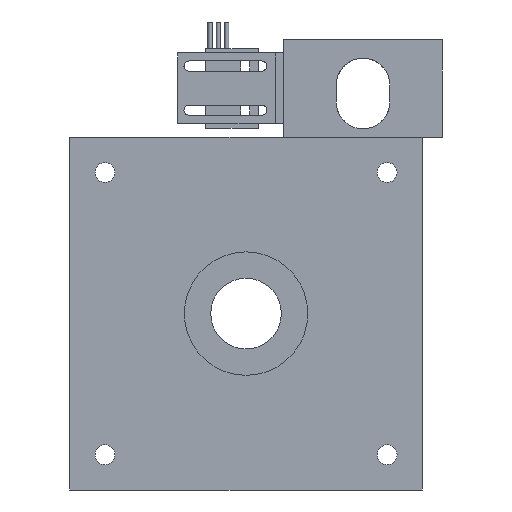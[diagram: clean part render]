
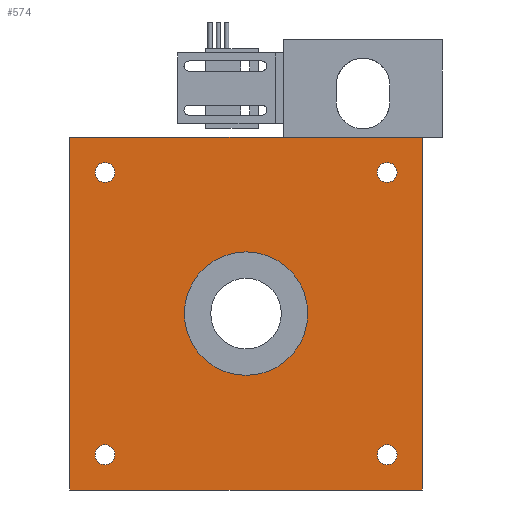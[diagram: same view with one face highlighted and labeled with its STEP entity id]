
A CAD part, front view. The second image highlights one B-rep face of the part: STEP entity #574.
In plain terms, the highlighted planar face has unit normal (0, -1, 0).
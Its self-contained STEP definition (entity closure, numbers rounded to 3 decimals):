
#93=DIRECTION('',(0.,0.,-1.));
#94=VECTOR('',#93,127.);
#95=CARTESIAN_POINT('',(-63.5,-35.475,63.5));
#96=LINE('',#95,#94);
#97=DIRECTION('',(-1.,0.,0.));
#98=VECTOR('',#97,127.);
#99=CARTESIAN_POINT('',(63.5,-35.475,63.5));
#100=LINE('',#99,#98);
#101=DIRECTION('',(0.,0.,1.));
#102=VECTOR('',#101,127.);
#103=CARTESIAN_POINT('',(63.5,-35.475,-63.5));
#104=LINE('',#103,#102);
#105=DIRECTION('',(1.,0.,0.));
#106=VECTOR('',#105,127.);
#107=CARTESIAN_POINT('',(-63.5,-35.475,-63.5));
#108=LINE('',#107,#106);
#109=CARTESIAN_POINT('',(50.8,-35.475,-50.8));
#110=DIRECTION('',(0.,1.,0.));
#111=DIRECTION('',(-1.,0.,0.));
#112=AXIS2_PLACEMENT_3D('',#109,#110,#111);
#114=CARTESIAN_POINT('',(50.8,-35.475,-50.8));
#115=DIRECTION('',(0.,1.,0.));
#116=DIRECTION('',(1.,0.,0.));
#117=AXIS2_PLACEMENT_3D('',#114,#115,#116);
#119=CARTESIAN_POINT('',(50.8,-35.475,50.8));
#120=DIRECTION('',(0.,-1.,0.));
#121=DIRECTION('',(-1.,0.,0.));
#122=AXIS2_PLACEMENT_3D('',#119,#120,#121);
#124=CARTESIAN_POINT('',(50.8,-35.475,50.8));
#125=DIRECTION('',(0.,-1.,0.));
#126=DIRECTION('',(1.,0.,0.));
#127=AXIS2_PLACEMENT_3D('',#124,#125,#126);
#129=CARTESIAN_POINT('',(-50.8,-35.475,-50.8));
#130=DIRECTION('',(0.,-1.,0.));
#131=DIRECTION('',(1.,0.,0.));
#132=AXIS2_PLACEMENT_3D('',#129,#130,#131);
#134=CARTESIAN_POINT('',(-50.8,-35.475,-50.8));
#135=DIRECTION('',(0.,-1.,0.));
#136=DIRECTION('',(-1.,0.,0.));
#137=AXIS2_PLACEMENT_3D('',#134,#135,#136);
#139=CARTESIAN_POINT('',(-50.8,-35.475,50.8));
#140=DIRECTION('',(0.,1.,0.));
#141=DIRECTION('',(1.,0.,0.));
#142=AXIS2_PLACEMENT_3D('',#139,#140,#141);
#144=CARTESIAN_POINT('',(-50.8,-35.475,50.8));
#145=DIRECTION('',(0.,1.,0.));
#146=DIRECTION('',(-1.,0.,0.));
#147=AXIS2_PLACEMENT_3D('',#144,#145,#146);
#149=CARTESIAN_POINT('',(0.,-35.475,0.));
#150=DIRECTION('',(0.,-1.,0.));
#151=DIRECTION('',(1.,0.,0.));
#152=AXIS2_PLACEMENT_3D('',#149,#150,#151);
#154=CARTESIAN_POINT('',(0.,-35.475,0.));
#155=DIRECTION('',(0.,-1.,0.));
#156=DIRECTION('',(-1.,0.,0.));
#157=AXIS2_PLACEMENT_3D('',#154,#155,#156);
#337=CARTESIAN_POINT('',(-63.5,-35.475,63.5));
#338=CARTESIAN_POINT('',(-63.5,-35.475,-63.5));
#339=VERTEX_POINT('',#337);
#340=VERTEX_POINT('',#338);
#341=CARTESIAN_POINT('',(63.5,-35.475,-63.5));
#342=VERTEX_POINT('',#341);
#343=CARTESIAN_POINT('',(63.5,-35.475,63.5));
#344=VERTEX_POINT('',#343);
#345=CARTESIAN_POINT('',(47.244,-35.475,-50.8));
#346=CARTESIAN_POINT('',(54.356,-35.475,-50.8));
#347=VERTEX_POINT('',#345);
#348=VERTEX_POINT('',#346);
#361=CARTESIAN_POINT('',(47.244,-35.475,50.8));
#362=CARTESIAN_POINT('',(54.356,-35.475,50.8));
#363=VERTEX_POINT('',#361);
#364=VERTEX_POINT('',#362);
#365=CARTESIAN_POINT('',(-47.244,-35.475,-50.8));
#366=CARTESIAN_POINT('',(-54.356,-35.475,-50.8));
#367=VERTEX_POINT('',#365);
#368=VERTEX_POINT('',#366);
#369=CARTESIAN_POINT('',(-47.244,-35.475,50.8));
#370=CARTESIAN_POINT('',(-54.356,-35.475,50.8));
#371=VERTEX_POINT('',#369);
#372=VERTEX_POINT('',#370);
#413=CARTESIAN_POINT('',(22.225,-35.475,0.));
#414=CARTESIAN_POINT('',(-22.225,-35.475,0.));
#415=VERTEX_POINT('',#413);
#416=VERTEX_POINT('',#414);
#533=CARTESIAN_POINT('',(0.,-35.475,0.));
#534=DIRECTION('',(0.,-1.,0.));
#535=DIRECTION('',(0.,0.,-1.));
#536=AXIS2_PLACEMENT_3D('',#533,#534,#535);
#537=PLANE('',#536);
#538=ORIENTED_EDGE('',*,*,#479,.F.);
#539=ORIENTED_EDGE('',*,*,#494,.F.);
#540=ORIENTED_EDGE('',*,*,#514,.F.);
#541=ORIENTED_EDGE('',*,*,#527,.F.);
#542=EDGE_LOOP('',(#538,#539,#540,#541));
#543=FACE_OUTER_BOUND('',#542,.F.);
#545=ORIENTED_EDGE('',*,*,#544,.F.);
#547=ORIENTED_EDGE('',*,*,#546,.F.);
#548=EDGE_LOOP('',(#545,#547));
#549=FACE_BOUND('',#548,.F.);
#551=ORIENTED_EDGE('',*,*,#550,.T.);
#553=ORIENTED_EDGE('',*,*,#552,.T.);
#554=EDGE_LOOP('',(#551,#553));
#555=FACE_BOUND('',#554,.F.);
#557=ORIENTED_EDGE('',*,*,#556,.T.);
#559=ORIENTED_EDGE('',*,*,#558,.T.);
#560=EDGE_LOOP('',(#557,#559));
#561=FACE_BOUND('',#560,.F.);
#563=ORIENTED_EDGE('',*,*,#562,.F.);
#565=ORIENTED_EDGE('',*,*,#564,.F.);
#566=EDGE_LOOP('',(#563,#565));
#567=FACE_BOUND('',#566,.F.);
#569=ORIENTED_EDGE('',*,*,#568,.T.);
#571=ORIENTED_EDGE('',*,*,#570,.T.);
#572=EDGE_LOOP('',(#569,#571));
#573=FACE_BOUND('',#572,.F.);
#574=ADVANCED_FACE('',(#543,#549,#555,#561,#567,#573),#537,.T.);
#113=CIRCLE('',#112,3.556);
#118=CIRCLE('',#117,3.556);
#123=CIRCLE('',#122,3.556);
#128=CIRCLE('',#127,3.556);
#133=CIRCLE('',#132,3.556);
#138=CIRCLE('',#137,3.556);
#143=CIRCLE('',#142,3.556);
#148=CIRCLE('',#147,3.556);
#153=CIRCLE('',#152,22.225);
#158=CIRCLE('',#157,22.225);
#479=EDGE_CURVE('',#339,#340,#96,.T.);
#494=EDGE_CURVE('',#344,#339,#100,.T.);
#514=EDGE_CURVE('',#342,#344,#104,.T.);
#527=EDGE_CURVE('',#340,#342,#108,.T.);
#544=EDGE_CURVE('',#347,#348,#113,.T.);
#546=EDGE_CURVE('',#348,#347,#118,.T.);
#550=EDGE_CURVE('',#363,#364,#123,.T.);
#552=EDGE_CURVE('',#364,#363,#128,.T.);
#556=EDGE_CURVE('',#367,#368,#133,.T.);
#558=EDGE_CURVE('',#368,#367,#138,.T.);
#562=EDGE_CURVE('',#371,#372,#143,.T.);
#564=EDGE_CURVE('',#372,#371,#148,.T.);
#568=EDGE_CURVE('',#415,#416,#153,.T.);
#570=EDGE_CURVE('',#416,#415,#158,.T.);
